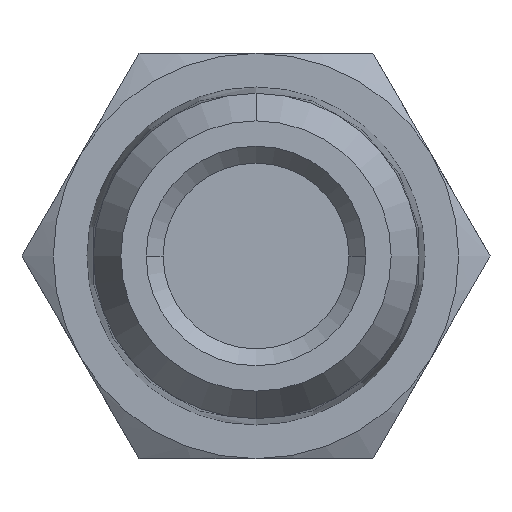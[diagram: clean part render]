
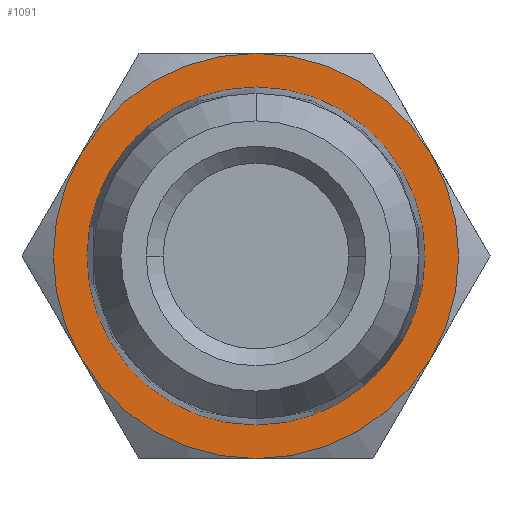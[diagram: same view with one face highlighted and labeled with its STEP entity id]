
A CAD part, front view. The second image highlights one B-rep face of the part: STEP entity #1091.
In plain terms, the highlighted planar face has unit normal (0, -1, 0).
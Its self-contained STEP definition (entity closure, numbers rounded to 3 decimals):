
#99 = EDGE_CURVE ( 'NONE', #2492, #2491, #1831, .T. ) ;
#118 = AXIS2_PLACEMENT_3D ( 'NONE', #1031, #1032, #1033 ) ;
#160 = AXIS2_PLACEMENT_3D ( 'NONE', #999, #1000, #1001 ) ;
#161 = AXIS2_PLACEMENT_3D ( 'NONE', #1002, #1003, #744 ) ;
#162 = AXIS2_PLACEMENT_3D ( 'NONE', #745, #746, #747 ) ;
#163 = AXIS2_PLACEMENT_3D ( 'NONE', #748, #749, #750 ) ;
#164 = AXIS2_PLACEMENT_3D ( 'NONE', #751, #752, #753 ) ;
#165 = AXIS2_PLACEMENT_3D ( 'NONE', #754, #755, #756 ) ;
#166 = AXIS2_PLACEMENT_3D ( 'NONE', #759, #760, #761 ) ;
#541 = EDGE_CURVE ( 'NONE', #2491, #2492, #1919, .T. ) ;
#542 = EDGE_CURVE ( 'NONE', #2204, #2220, #1920, .T. ) ;
#543 = EDGE_CURVE ( 'NONE', #2215, #2204, #1917, .T. ) ;
#544 = EDGE_CURVE ( 'NONE', #2217, #2215, #1922, .T. ) ;
#545 = EDGE_CURVE ( 'NONE', #2219, #2217, #1923, .T. ) ;
#546 = EDGE_CURVE ( 'NONE', #2221, #2219, #1924, .T. ) ;
#547 = EDGE_CURVE ( 'NONE', #2220, #2221, #1925, .T. ) ;
#744 = DIRECTION ( 'NONE',  ( 0., 0., -1. ) ) ;
#745 = CARTESIAN_POINT ( 'NONE',  ( 0., 7.5, 0. ) ) ;
#746 = DIRECTION ( 'NONE',  ( 0., -1., 0. ) ) ;
#747 = DIRECTION ( 'NONE',  ( 0., 0., -1. ) ) ;
#748 = CARTESIAN_POINT ( 'NONE',  ( 0., 7.5, 0. ) ) ;
#749 = DIRECTION ( 'NONE',  ( 0., -1., 0. ) ) ;
#750 = DIRECTION ( 'NONE',  ( 0., 0., -1. ) ) ;
#751 = CARTESIAN_POINT ( 'NONE',  ( 0., 7.5, 0. ) ) ;
#752 = DIRECTION ( 'NONE',  ( 0., -1., 0. ) ) ;
#753 = DIRECTION ( 'NONE',  ( 0., 0., -1. ) ) ;
#754 = CARTESIAN_POINT ( 'NONE',  ( 0., 7.5, 0. ) ) ;
#755 = DIRECTION ( 'NONE',  ( 0., -1., 0. ) ) ;
#756 = DIRECTION ( 'NONE',  ( 0., 0., -1. ) ) ;
#759 = CARTESIAN_POINT ( 'NONE',  ( 0., 7.5, 0. ) ) ;
#760 = DIRECTION ( 'NONE',  ( 0., -1., 0. ) ) ;
#761 = DIRECTION ( 'NONE',  ( 0., 0., -1. ) ) ;
#999 = CARTESIAN_POINT ( 'NONE',  ( 0., 7.5, 0. ) ) ;
#1000 = DIRECTION ( 'NONE',  ( 0., -1., 0. ) ) ;
#1001 = DIRECTION ( 'NONE',  ( 0., 0., -1. ) ) ;
#1002 = CARTESIAN_POINT ( 'NONE',  ( 0., 7.5, 0. ) ) ;
#1003 = DIRECTION ( 'NONE',  ( 0., -1., 0. ) ) ;
#1031 = CARTESIAN_POINT ( 'NONE',  ( 0., 7.5, 0. ) ) ;
#1032 = DIRECTION ( 'NONE',  ( 0., -1., 0. ) ) ;
#1033 = DIRECTION ( 'NONE',  ( 0., 0., -1. ) ) ;
#1091 = ADVANCED_FACE ( 'NONE', ( #3179, #3180 ), #1237, .T. ) ;
#1237 = PLANE ( 'NONE',  #2171 ) ;
#1244 = CARTESIAN_POINT ( 'NONE',  ( 5.005, 7.5, 0. ) ) ;
#1245 = DIRECTION ( 'NONE',  ( 0., -1., 0. ) ) ;
#1246 = DIRECTION ( 'NONE',  ( 0., 0., -1. ) ) ;
#1376 = EDGE_LOOP ( 'NONE', ( #2308, #2309, #2310, #2311, #2312, #2313 ) ) ;
#1377 = EDGE_LOOP ( 'NONE', ( #2314, #2315 ) ) ;
#1691 = CARTESIAN_POINT ( 'NONE',  ( -5.196, 7.5, 3. ) ) ;
#1702 = CARTESIAN_POINT ( 'NONE',  ( 0., 7.5, 6. ) ) ;
#1704 = CARTESIAN_POINT ( 'NONE',  ( 5.196, 7.5, 3. ) ) ;
#1706 = CARTESIAN_POINT ( 'NONE',  ( 5.196, 7.5, -3. ) ) ;
#1707 = CARTESIAN_POINT ( 'NONE',  ( -5.196, 7.5, -3. ) ) ;
#1708 = CARTESIAN_POINT ( 'NONE',  ( 0., 7.5, -6. ) ) ;
#1728 = CARTESIAN_POINT ( 'NONE',  ( 0., 7.5, 5.005 ) ) ;
#1732 = CARTESIAN_POINT ( 'NONE',  ( 0., 7.5, -5.005 ) ) ;
#1831 = CIRCLE ( 'NONE', #118, 5.005 ) ;
#1917 = CIRCLE ( 'NONE', #162, 6. ) ;
#1919 = CIRCLE ( 'NONE', #160, 5.005 ) ;
#1920 = CIRCLE ( 'NONE', #161, 6. ) ;
#1922 = CIRCLE ( 'NONE', #163, 6. ) ;
#1923 = CIRCLE ( 'NONE', #164, 6. ) ;
#1924 = CIRCLE ( 'NONE', #165, 6. ) ;
#1925 = CIRCLE ( 'NONE', #166, 6. ) ;
#2171 = AXIS2_PLACEMENT_3D ( 'NONE', #1244, #1245, #1246 ) ;
#2204 = VERTEX_POINT ( 'NONE', #1691 ) ;
#2215 = VERTEX_POINT ( 'NONE', #1702 ) ;
#2217 = VERTEX_POINT ( 'NONE', #1704 ) ;
#2219 = VERTEX_POINT ( 'NONE', #1706 ) ;
#2220 = VERTEX_POINT ( 'NONE', #1707 ) ;
#2221 = VERTEX_POINT ( 'NONE', #1708 ) ;
#2308 = ORIENTED_EDGE ( 'NONE', *, *, #546, .T. ) ;
#2309 = ORIENTED_EDGE ( 'NONE', *, *, #545, .T. ) ;
#2310 = ORIENTED_EDGE ( 'NONE', *, *, #544, .T. ) ;
#2311 = ORIENTED_EDGE ( 'NONE', *, *, #543, .T. ) ;
#2312 = ORIENTED_EDGE ( 'NONE', *, *, #542, .T. ) ;
#2313 = ORIENTED_EDGE ( 'NONE', *, *, #547, .T. ) ;
#2314 = ORIENTED_EDGE ( 'NONE', *, *, #541, .F. ) ;
#2315 = ORIENTED_EDGE ( 'NONE', *, *, #99, .F. ) ;
#2491 = VERTEX_POINT ( 'NONE', #1728 ) ;
#2492 = VERTEX_POINT ( 'NONE', #1732 ) ;
#3179 = FACE_OUTER_BOUND ( 'NONE', #1376, .T. ) ;
#3180 = FACE_BOUND ( 'NONE', #1377, .T. ) ;
